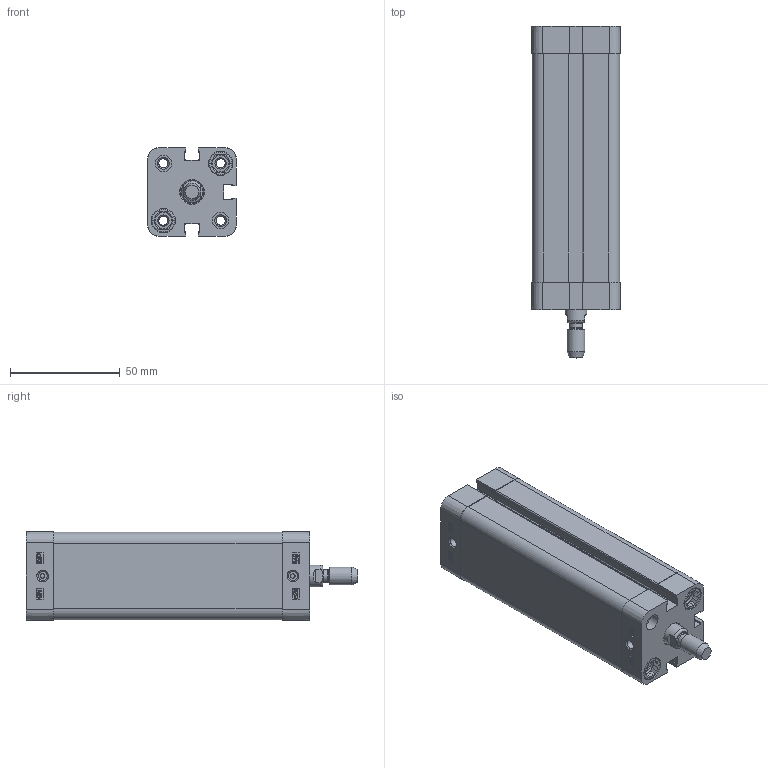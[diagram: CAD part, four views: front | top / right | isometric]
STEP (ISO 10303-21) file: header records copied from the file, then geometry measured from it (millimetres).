
FILE_DESCRIPTION((''),'2;1');
FILE_NAME('T:\Archivio Inventor\- CATALOGHI 2012\SERIE P - NUOVA\PDM\PDM025\PDM025.---.GS.M\PDM025.090.GS.M.stp','2013-01-31T08:08:35',('Administrator'),(''),'Autodesk Inventor 2012','Autodesk Inventor 2012','');
FILE_SCHEMA(('CONFIG_CONTROL_DESIGN'));
Length unit declared in the file: millimetre
Products named in the file (1): PDM025.090.GS.M
Bounding box: 40.3 x 151 x 40.3 mm (x, y, z)
Volume: 105903.4 mm3; surface area: 54487.2 mm2
Topology: 1 solids, 3 shells, 596 faces, 1552 edges, 1017 vertices
Faces by surface type: plane 312, cylinder 130, bspline 92, cone 50, torus 12
Full cylindrical faces by diameter (mm): 2 x2, 4.134 x10, 5.8 x1, 7.5 x4, 7.55 x2, 8 x9, 9 x1, 10 x1, 10.5 x1, 10.8 x4, 11.1 x4, 25 x1, 27.3 x1, 27.5 x1
Entity records: 18788 total; most frequent: CARTESIAN_POINT 4312, ORIENTED_EDGE 2888, DIRECTION 2606, EDGE_CURVE 1444, VERTEX_POINT 1002, VECTOR 898, LINE 898, AXIS2_PLACEMENT_3D 854
